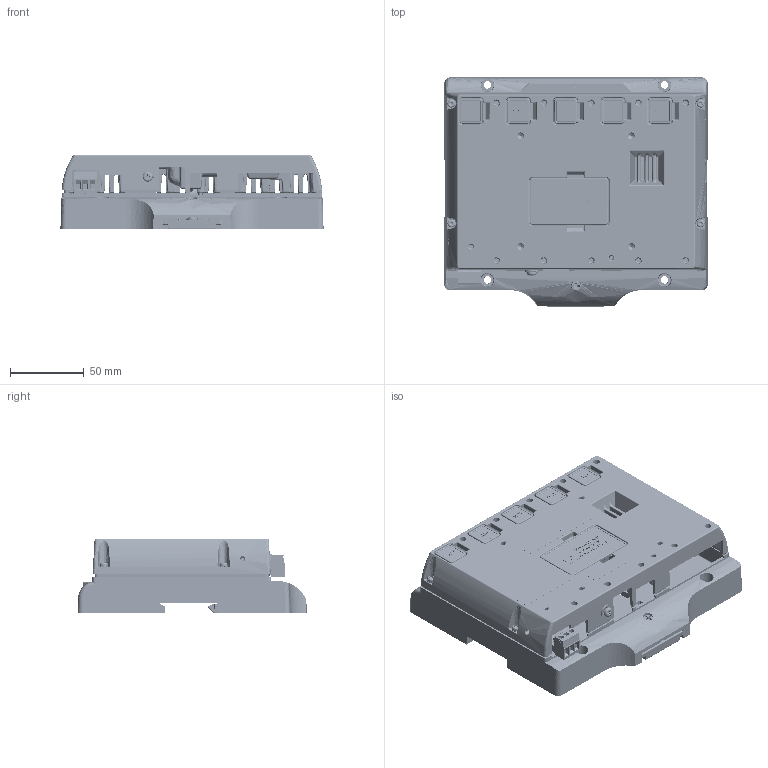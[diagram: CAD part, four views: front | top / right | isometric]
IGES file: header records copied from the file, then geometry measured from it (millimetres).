
Start section: C
Global section: file name: GRAC00C5.igs; native system: By Siemens PLM Incorporated; preprocessor: XPlus GENERIC/IGES 20.0.26; author: Author; organization: Title; date: 20171011.115547; units: millimetre
Bounding box: 178.2 x 155.07 x 50.43 mm (x, y, z)
Surface area: 237192.2 mm2 (no closed solid volume)
Topology: 0 solids, 0 shells, 10918 faces, 59165 edges, 58882 vertices
Faces by surface type: bspline 10918
